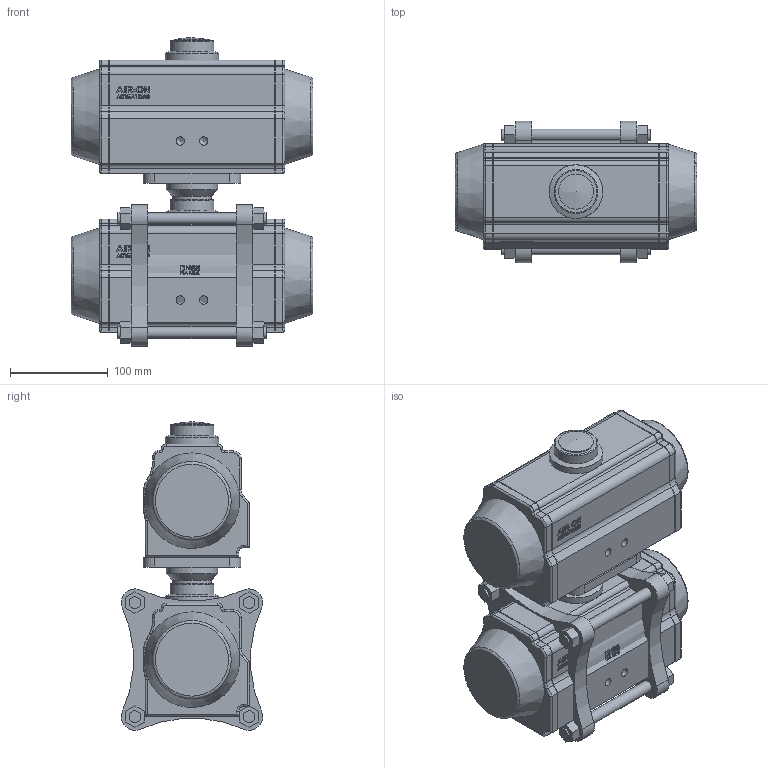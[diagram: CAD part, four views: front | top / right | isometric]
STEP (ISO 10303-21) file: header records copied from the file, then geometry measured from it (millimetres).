
FILE_DESCRIPTION( ( 'Unknown' ), '1' );
FILE_NAME( 'W:/ECCUA/ROOTSI BPS 3D vidinad/Kuulkraanid/Roostevaba kuulkraanid/Ball valve BPS 2420/Ball valve with pneumatic actuator BPS/STEP format/BPS 2420065P ball valve DN65.stp', 'Unknown', ( 'Unknown' ), ( 'Unknown' ), 'PSStep 10.1', 'Unknown', ' ' );
FILE_SCHEMA( ( 'AUTOMOTIVE_DESIGN { 1 0 10303 214 1 1 1 1 }' ) );
Length unit declared in the file: millimetre
Products named in the file (5): Assem1; BPS 2420065 ball valve DN65; BPS 8300088DA-SR pneumatic actuator
Bounding box: 248 x 144.92 x 316.46 mm (x, y, z)
Volume: 7825275.8 mm3; surface area: 728505 mm2
Topology: 8 solids, 8 shells, 1196 faces, 2988 edges, 1950 vertices
Faces by surface type: plane 508, cylinder 288, extrusion 202, bspline 102, torus 58, cone 36, sphere 2
Full cylindrical faces by diameter (mm): 4.917 x8, 6.647 x8, 8.376 x8, 8.566 x4, 12 x24, 36 x2, 40 x2, 45 x2, 53 x2, 55 x2, 65 x2, 72.226 x4, 110 x2
Entity records: 28765 total; most frequent: CARTESIAN_POINT 10780, ORIENTED_EDGE 2776, DIRECTION 2269, EDGE_CURVE 1388, VERTEX_POINT 951, VECTOR 765, EDGE_LOOP 755, AXIS2_PLACEMENT_3D 752
